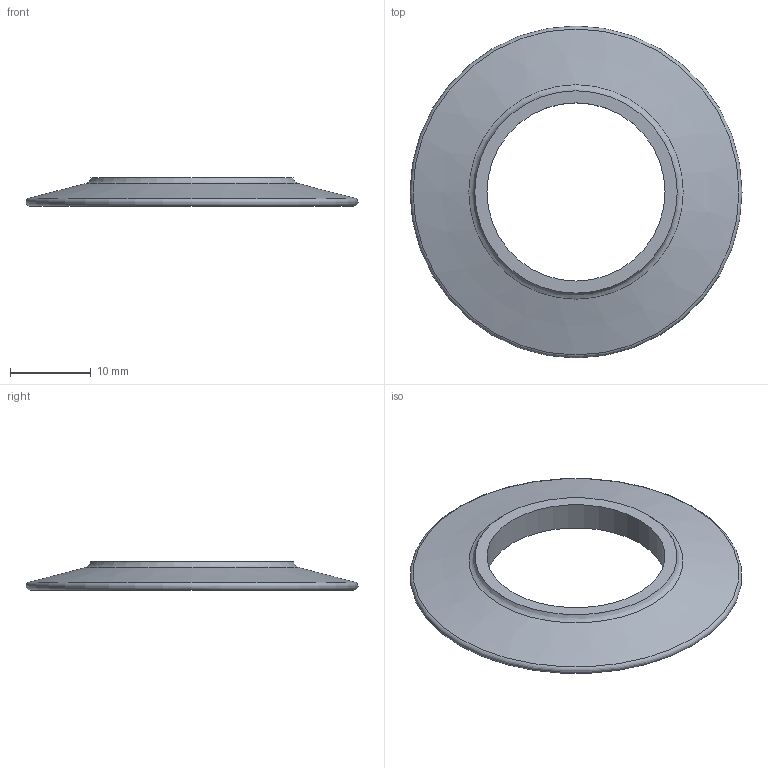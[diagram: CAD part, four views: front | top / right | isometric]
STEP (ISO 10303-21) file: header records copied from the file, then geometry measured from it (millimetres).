
FILE_DESCRIPTION(('FreeCAD Model'),'2;1');
FILE_NAME('Open CASCADE Shape Model','2021-09-08T16:21:12',('Author'),( ''),'Open CASCADE STEP processor 7.5','FreeCAD','Unknown');
FILE_SCHEMA(('AUTOMOTIVE_DESIGN { 1 0 10303 214 1 1 1 1 }'));
Length unit declared in the file: millimetre
Products named in the file (1): Body001
Bounding box: 41 x 41 x 3.5 mm (x, y, z)
Volume: 1909.7 mm3; surface area: 2246.6 mm2
Topology: 1 solids, 1 shells, 6 faces, 10 edges, 6 vertices
Faces by surface type: revolution 2, plane 2, cone 1, cylinder 1
Full cylindrical faces by diameter (mm): 22 x1
Entity records: 316 total; most frequent: CARTESIAN_POINT 57, DIRECTION 52, ORIENTED_EDGE 20, PCURVE 20, DEFINITIONAL_REPRESENTATION 20, LINE 18, VECTOR 18, AXIS2_PLACEMENT_3D 15
